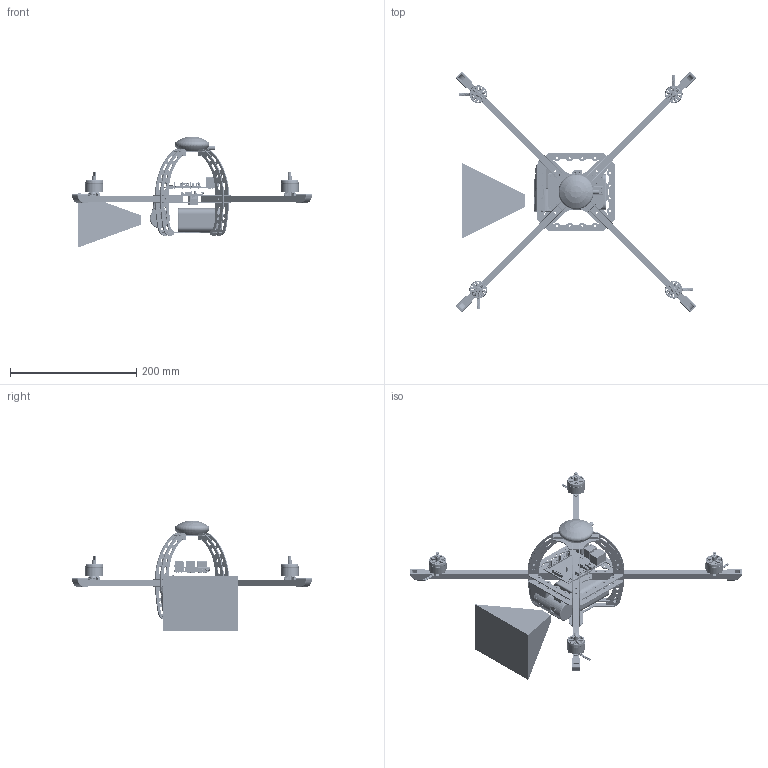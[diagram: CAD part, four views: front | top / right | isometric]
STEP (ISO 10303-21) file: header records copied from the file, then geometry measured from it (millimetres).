
FILE_DESCRIPTION(('STEP AP214'),'1');
FILE_NAME('varioframe assy.stp','2018-11-02T07:12:59',(' '),(' '),'Spatial InterOp 3D',' ',' ');
FILE_SCHEMA(('AUTOMOTIVE_DESIGN { 1 0 10303 214 1 1 1 1 }'));
Length unit declared in the file: metre
Products named in the file (96): varioframe assy; varioframe assy_milestone_for export; boom; boom Geometry; endcap; motor v4; Component1; Component2; Component3; Component4; Component5; Component6; Component7; Component8; Component9; Component10; Component11; Component12; Component13; Component14; Component15; Component16; Component17; Component18; Component19; Component20; Component21; Component22; Component23; Component24; Component25; Component26; Component27; Component28; Component29; Component30; Component31; Component32; Component33; tube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
Assembly tree (210 placements, depth 6):
  varioframe assy
    varioframe assy_milestone_for export
    booms
      Pattern
        boom
          boom Geometry
          endcap
          motor v4
            Component1
            Component2
            Component3
            Component4
            Component5
            Component6
            Component7
            Component8
            Component9
            Component10
            Component11
            Component12
            Component13
            Component14
            Component15
            Component16
            Component17
            Component18
            Component19
            Component20
            Component21
            Component22
            Component23
            Component24
            Component25
            Component26
            Component27
            Component28
            Component29
            Component30
            Component31
            Component32
            Component33
          tube
          vertical frame
        boom
          boom Geometry
          endcap
          motor v4
            Component1
            Component2
            Component3
            Component4
            Component5
            Component6
            Component7
            Component8
            Component9
            Component10
            Component11
            Component12
            Component13
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Bounding box: 381.7 x 381.7 x 176.17 mm (x, y, z)
Volume: 1195481.4 mm3; surface area: 961874.5 mm2
Topology: 296 solids, 296 shells, 22328 faces, 60517 edges, 39337 vertices
Faces by surface type: plane 11099, cylinder 9374, torus 1060, bspline 415, cone 353, sphere 20, extrusion 3, revolution 2, offset 2
Entity records: 697333 total; most frequent: CARTESIAN_POINT 152628, DIRECTION 87048, ORIENTED_EDGE 85038, EDGE_CURVE 42519, AXIS2_PLACEMENT_3D 30024, VERTEX_POINT 27799, VECTOR 26998, LINE 26995
